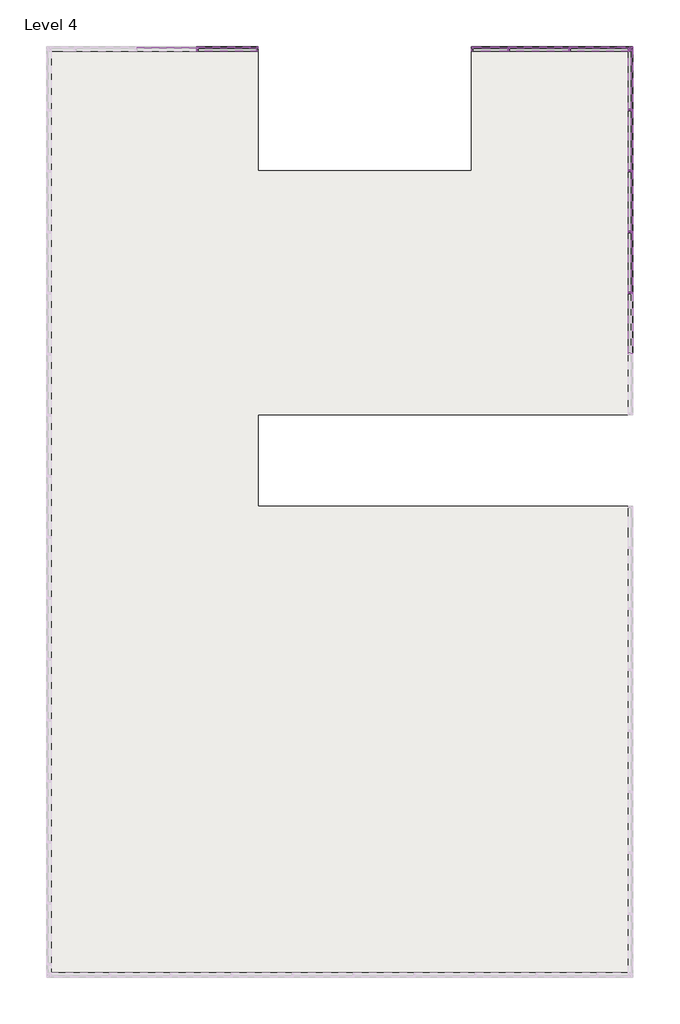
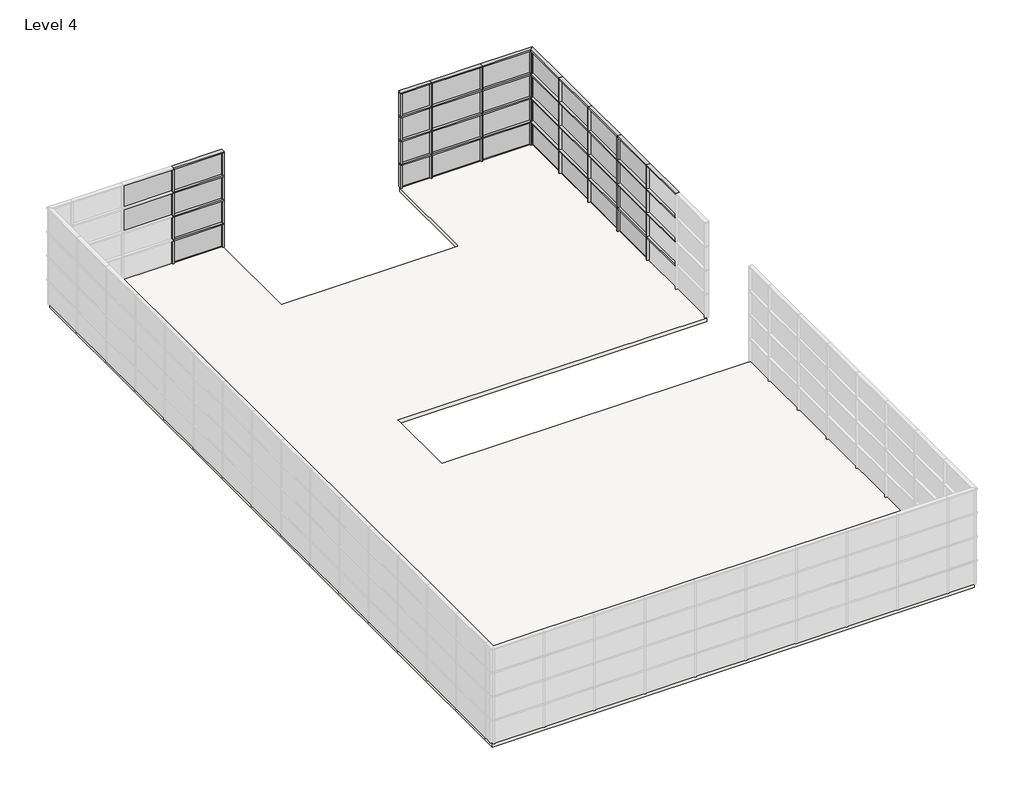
# One storey, part 5 of 5: 80 members, 34 plates, 1 slab.
"""IFC4 building model written with IfcOpenShell, lengths in millimetres."""

from ifc_helpers import new_model, si_unit, frame, origin, place, context, project, spatial, polyline, outline, extrude, transform, mapped, element, save
from components import rectangular_mullion_50_x_150mm_a053b0ca, rectangular_mullion_50_x_150mm_3a148f0f, rectangular_mullion_50_x_150mm_12a430f9, rectangular_mullion_50_x_150mm_11a594ce, rectangular_mullion_50_x_150mm_6b24f785, rectangular_mullion_50_x_150mm_947845bb, system_panel_glazed_751a585c, system_panel_glazed_08de6f5f, system_panel_glazed_892a108f

model = new_model("IFC4")

# Units and contexts
model_context = context("Model", 3, world=origin())
ifc_project = project(units=[si_unit("LENGTHUNIT", "METRE", prefix="MILLI")], contexts=[model_context])

# Site, building, storey
site = spatial("IfcSite", under=ifc_project)
building = spatial("IfcBuilding", under=site)
storey = spatial("IfcBuildingStorey", under=building, Name="Level 4", Elevation=12000.0)

# Members
placement = place(None, origin())
rectangular_mullion_50_x_150mm_shape = rectangular_mullion_50_x_150mm_a053b0ca(model_context)
element("IfcMember", 1, ObjectType="Rectangular Mullion : 50 x 150mm", at=placement, inside=storey, context=model_context, shape_type="MappedRepresentation", body=[
    mapped(rectangular_mullion_50_x_150mm_shape, transform((-721.580781, 8375.9839566, 12025.0), x_axis=(-1.0, 0.0, 0.0), y_axis=(0.0, 1.0, 0.0), z_axis=(0.0, 0.0, -1.0))),
])
element("IfcMember", 2, ObjectType="Rectangular Mullion : 50 x 150mm", at=placement, inside=storey, context=model_context, shape_type="MappedRepresentation", body=[
    mapped(rectangular_mullion_50_x_150mm_shape, transform((-721.580781, 8375.9839566, 13025.0), x_axis=(-1.0, 0.0, 0.0), y_axis=(0.0, 1.0, 0.0), z_axis=(0.0, 0.0, -1.0))),
])
element("IfcMember", 3, ObjectType="Rectangular Mullion : 50 x 150mm", at=placement, inside=storey, context=model_context, shape_type="MappedRepresentation", body=[
    mapped(rectangular_mullion_50_x_150mm_shape, transform((-721.580781, 8375.9839566, 14025.0), x_axis=(-1.0, 0.0, 0.0), y_axis=(0.0, 1.0, 0.0), z_axis=(0.0, 0.0, -1.0))),
])
element("IfcMember", 4, ObjectType="Rectangular Mullion : 50 x 150mm", at=placement, inside=storey, context=model_context, shape_type="MappedRepresentation", body=[
    mapped(rectangular_mullion_50_x_150mm_shape, transform((-721.580781, 8375.9839566, 15025.0), x_axis=(-1.0, 0.0, 0.0), y_axis=(0.0, 1.0, 0.0), z_axis=(0.0, 0.0, -1.0))),
])
element("IfcMember", 5, ObjectType="Rectangular Mullion : 50 x 150mm", at=placement, inside=storey, context=model_context, shape_type="MappedRepresentation", body=[
    mapped(rectangular_mullion_50_x_150mm_shape, transform((9503.2660975, 8375.9839566, 12025.0), x_axis=(-1.0, 0.0, 0.0), y_axis=(0.0, 1.0, 0.0), z_axis=(0.0, 0.0, -1.0))),
])
element("IfcMember", 6, ObjectType="Rectangular Mullion : 50 x 150mm", at=placement, inside=storey, context=model_context, shape_type="MappedRepresentation", body=[
    mapped(rectangular_mullion_50_x_150mm_shape, transform((9503.2660975, 8375.9839566, 13025.0), x_axis=(-1.0, 0.0, 0.0), y_axis=(0.0, 1.0, 0.0), z_axis=(0.0, 0.0, -1.0))),
])
element("IfcMember", 7, ObjectType="Rectangular Mullion : 50 x 150mm", at=placement, inside=storey, context=model_context, shape_type="MappedRepresentation", body=[
    mapped(rectangular_mullion_50_x_150mm_shape, transform((9503.2660975, 8375.9839566, 14025.0), x_axis=(-1.0, 0.0, 0.0), y_axis=(0.0, 1.0, 0.0), z_axis=(0.0, 0.0, -0.9999999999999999))),
])
element("IfcMember", 8, ObjectType="Rectangular Mullion : 50 x 150mm", at=placement, inside=storey, context=model_context, shape_type="MappedRepresentation", body=[
    mapped(rectangular_mullion_50_x_150mm_shape, transform((9503.2660975, 8375.9839566, 15025.0), x_axis=(-1.0, 0.0, 0.0), y_axis=(0.0, 1.0, 0.0), z_axis=(0.0, 0.0, -1.0))),
])
element("IfcMember", 9, ObjectType="Rectangular Mullion : 50 x 150mm", at=placement, inside=storey, context=model_context, shape_type="MappedRepresentation", body=[
    mapped(rectangular_mullion_50_x_150mm_shape, transform((11503.2660975, 8375.9839566, 12025.0), x_axis=(-1.0, 0.0, 0.0), y_axis=(0.0, 1.0, 0.0), z_axis=(0.0, 0.0, -1.0))),
])
element("IfcMember", 10, ObjectType="Rectangular Mullion : 50 x 150mm", at=placement, inside=storey, context=model_context, shape_type="MappedRepresentation", body=[
    mapped(rectangular_mullion_50_x_150mm_shape, transform((11503.2660975, 8375.9839566, 13025.0), x_axis=(-1.0, 0.0, 0.0), y_axis=(0.0, 1.0, 0.0), z_axis=(0.0, 0.0, -1.0))),
])
element("IfcMember", 11, ObjectType="Rectangular Mullion : 50 x 150mm", at=placement, inside=storey, context=model_context, shape_type="MappedRepresentation", body=[
    mapped(rectangular_mullion_50_x_150mm_shape, transform((11503.2660975, 8375.9839566, 14025.0), x_axis=(-1.0, 0.0, 0.0), y_axis=(0.0, 1.0, 0.0), z_axis=(0.0, 0.0, -1.0))),
])
element("IfcMember", 12, ObjectType="Rectangular Mullion : 50 x 150mm", at=placement, inside=storey, context=model_context, shape_type="MappedRepresentation", body=[
    mapped(rectangular_mullion_50_x_150mm_shape, transform((11503.2660975, 8375.9839566, 15025.0), x_axis=(-1.0, 0.0, 0.0), y_axis=(0.0, 1.0, 0.0), z_axis=(0.0, 0.0, -1.0))),
])
element("IfcMember", 13, ObjectType="Rectangular Mullion : 50 x 150mm", at=placement, inside=storey, context=model_context, shape_type="MappedRepresentation", body=[
    mapped(rectangular_mullion_50_x_150mm_shape, transform((13503.2660975, 2375.9839566, 12025.0), x_axis=(0.0, 1.0, 0.0), y_axis=(1.0, 0.0, 0.0), z_axis=(0.0, 0.0, -1.0))),
])
element("IfcMember", 14, ObjectType="Rectangular Mullion : 50 x 150mm", at=placement, inside=storey, context=model_context, shape_type="MappedRepresentation", body=[
    mapped(rectangular_mullion_50_x_150mm_shape, transform((13503.2660975, 2375.9839566, 13025.0), x_axis=(0.0, 1.0, 0.0), y_axis=(1.0, 0.0, 0.0), z_axis=(0.0, 0.0, -1.0))),
])
element("IfcMember", 15, ObjectType="Rectangular Mullion : 50 x 150mm", at=placement, inside=storey, context=model_context, shape_type="MappedRepresentation", body=[
    mapped(rectangular_mullion_50_x_150mm_shape, transform((13503.2660975, 2375.9839566, 14025.0), x_axis=(0.0, 1.0, 0.0), y_axis=(1.0, 0.0, 0.0), z_axis=(0.0, 0.0, -1.0))),
])
element("IfcMember", 16, ObjectType="Rectangular Mullion : 50 x 150mm", at=placement, inside=storey, context=model_context, shape_type="MappedRepresentation", body=[
    mapped(rectangular_mullion_50_x_150mm_shape, transform((13503.2660975, 2375.9839566, 15025.0), x_axis=(0.0, 1.0, 0.0), y_axis=(1.0, 0.0, 0.0), z_axis=(0.0, 0.0, -1.0))),
])
element("IfcMember", 17, ObjectType="Rectangular Mullion : 50 x 150mm", at=placement, inside=storey, context=model_context, shape_type="MappedRepresentation", body=[
    mapped(rectangular_mullion_50_x_150mm_shape, transform((13503.2660975, 4375.9839566, 12025.0), x_axis=(0.0, 1.0, 0.0), y_axis=(1.0, 0.0, 0.0), z_axis=(0.0, 0.0, -1.0))),
])
element("IfcMember", 18, ObjectType="Rectangular Mullion : 50 x 150mm", at=placement, inside=storey, context=model_context, shape_type="MappedRepresentation", body=[
    mapped(rectangular_mullion_50_x_150mm_shape, transform((13503.2660975, 4375.9839566, 13025.0), x_axis=(0.0, 1.0, 0.0), y_axis=(1.0, 0.0, 0.0), z_axis=(0.0, 0.0, -1.0))),
])
element("IfcMember", 19, ObjectType="Rectangular Mullion : 50 x 150mm", at=placement, inside=storey, context=model_context, shape_type="MappedRepresentation", body=[
    mapped(rectangular_mullion_50_x_150mm_shape, transform((13503.2660975, 4375.9839566, 14025.0), x_axis=(0.0, 1.0, 0.0), y_axis=(1.0, 0.0, 0.0), z_axis=(0.0, 0.0, -1.0))),
])
element("IfcMember", 20, ObjectType="Rectangular Mullion : 50 x 150mm", at=placement, inside=storey, context=model_context, shape_type="MappedRepresentation", body=[
    mapped(rectangular_mullion_50_x_150mm_shape, transform((13503.2660975, 4375.9839566, 15025.0), x_axis=(0.0, 1.0, 0.0), y_axis=(1.0, 0.0, 0.0), z_axis=(0.0, 0.0, -1.0))),
])
element("IfcMember", 21, ObjectType="Rectangular Mullion : 50 x 150mm", at=placement, inside=storey, context=model_context, shape_type="MappedRepresentation", body=[
    mapped(rectangular_mullion_50_x_150mm_shape, transform((13503.2660975, 6375.9839566, 12025.0), x_axis=(0.0, 1.0, 0.0), y_axis=(1.0, 0.0, 0.0), z_axis=(0.0, 0.0, -1.0))),
])
element("IfcMember", 22, ObjectType="Rectangular Mullion : 50 x 150mm", at=placement, inside=storey, context=model_context, shape_type="MappedRepresentation", body=[
    mapped(rectangular_mullion_50_x_150mm_shape, transform((13503.2660975, 6375.9839566, 13025.0), x_axis=(0.0, 1.0, 0.0), y_axis=(1.0, 0.0, 0.0), z_axis=(0.0, 0.0, -1.0))),
])
element("IfcMember", 23, ObjectType="Rectangular Mullion : 50 x 150mm", at=placement, inside=storey, context=model_context, shape_type="MappedRepresentation", body=[
    mapped(rectangular_mullion_50_x_150mm_shape, transform((13503.2660975, 6375.9839566, 14025.0), x_axis=(0.0, 1.0, 0.0), y_axis=(1.0, 0.0, 0.0), z_axis=(0.0, 0.0, -1.0))),
])
element("IfcMember", 24, ObjectType="Rectangular Mullion : 50 x 150mm", at=placement, inside=storey, context=model_context, shape_type="MappedRepresentation", body=[
    mapped(rectangular_mullion_50_x_150mm_shape, transform((13503.2660975, 6375.9839566, 15025.0), x_axis=(0.0, 1.0, 0.0), y_axis=(1.0, 0.0, 0.0), z_axis=(0.0, 0.0, -1.0))),
])
element("IfcMember", 25, ObjectType="Rectangular Mullion : 50 x 150mm", at=placement, inside=storey, context=model_context, shape_type="MappedRepresentation", body=[
    mapped(rectangular_mullion_50_x_150mm_shape, transform((13503.2660975, 375.9839566, 12025.0), x_axis=(0.0, 1.0, 0.0), y_axis=(1.0, 0.0, 0.0), z_axis=(0.0, 0.0, -1.0))),
])
element("IfcMember", 26, ObjectType="Rectangular Mullion : 50 x 150mm", at=placement, inside=storey, context=model_context, shape_type="MappedRepresentation", body=[
    mapped(rectangular_mullion_50_x_150mm_shape, transform((13503.2660975, 375.9839566, 13025.0), x_axis=(0.0, 1.0, 0.0), y_axis=(1.0, 0.0, 0.0), z_axis=(0.0, 0.0, -1.0))),
])
element("IfcMember", 27, ObjectType="Rectangular Mullion : 50 x 150mm", at=placement, inside=storey, context=model_context, shape_type="MappedRepresentation", body=[
    mapped(rectangular_mullion_50_x_150mm_shape, transform((13503.2660975, 375.9839566, 14025.0), x_axis=(0.0, 1.0, 0.0), y_axis=(1.0, 0.0, 0.0), z_axis=(0.0, 0.0, -1.0))),
])
element("IfcMember", 28, ObjectType="Rectangular Mullion : 50 x 150mm", at=placement, inside=storey, context=model_context, shape_type="MappedRepresentation", body=[
    mapped(rectangular_mullion_50_x_150mm_shape, transform((13503.2660975, 375.9839566, 15025.0), x_axis=(0.0, 1.0, 0.0), y_axis=(1.0, 0.0, 0.0), z_axis=(0.0, 0.0, -1.0))),
])
rectangular_mullion_50_x_150mm_2_shape = rectangular_mullion_50_x_150mm_3a148f0f(model_context)
element("IfcMember", 29, ObjectType="Rectangular Mullion : 50 x 150mm", at=placement, inside=storey, context=model_context, shape_type="MappedRepresentation", body=[
    mapped(rectangular_mullion_50_x_150mm_2_shape, transform((-721.580781, 8375.9839566, 13000.0), x_axis=(0.0, 0.0, 1.0), y_axis=(0.0, 1.0, 0.0), z_axis=(-1.0, 0.0, 0.0))),
])
element("IfcMember", 30, ObjectType="Rectangular Mullion : 50 x 150mm", at=placement, inside=storey, context=model_context, shape_type="MappedRepresentation", body=[
    mapped(rectangular_mullion_50_x_150mm_2_shape, transform((-721.580781, 8375.9839566, 14000.0), x_axis=(0.0, 0.0, 1.0), y_axis=(0.0, 1.0, 0.0), z_axis=(-1.0, 0.0, 0.0))),
])
element("IfcMember", 31, ObjectType="Rectangular Mullion : 50 x 150mm", at=placement, inside=storey, context=model_context, shape_type="MappedRepresentation", body=[
    mapped(rectangular_mullion_50_x_150mm_2_shape, transform((-721.580781, 8375.9839566, 15000.0), x_axis=(0.0, 0.0, 1.0), y_axis=(0.0, 1.0, 0.0), z_axis=(-0.9999999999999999, 0.0, 0.0))),
])
element("IfcMember", 32, ObjectType="Rectangular Mullion : 50 x 150mm", at=placement, inside=storey, context=model_context, shape_type="MappedRepresentation", body=[
    mapped(rectangular_mullion_50_x_150mm_2_shape, transform((-721.580781, 8375.9839566, 16000.0), x_axis=(0.0, 0.0, 1.0), y_axis=(0.0, 1.0, 0.0), z_axis=(-1.0, 0.0, 0.0))),
])
element("IfcMember", 33, ObjectType="Rectangular Mullion : 50 x 150mm", at=placement, inside=storey, context=model_context, shape_type="MappedRepresentation", body=[
    mapped(rectangular_mullion_50_x_150mm_2_shape, transform((9503.2660975, 8375.9839566, 14000.0), x_axis=(0.0, 0.0, 1.0), y_axis=(0.0, 1.0, 0.0), z_axis=(-1.0, 0.0, 0.0))),
])
element("IfcMember", 34, ObjectType="Rectangular Mullion : 50 x 150mm", at=placement, inside=storey, context=model_context, shape_type="MappedRepresentation", body=[
    mapped(rectangular_mullion_50_x_150mm_2_shape, transform((9503.2660975, 8375.9839566, 15000.0), x_axis=(0.0, 0.0, 1.0), y_axis=(0.0, 1.0, 0.0), z_axis=(-1.0, 0.0, 0.0))),
])
element("IfcMember", 35, ObjectType="Rectangular Mullion : 50 x 150mm", at=placement, inside=storey, context=model_context, shape_type="MappedRepresentation", body=[
    mapped(rectangular_mullion_50_x_150mm_2_shape, transform((9503.2660975, 8375.9839566, 16000.0), x_axis=(0.0, 0.0, 1.0), y_axis=(0.0, 1.0, 0.0), z_axis=(-1.0, 0.0, 0.0))),
])
element("IfcMember", 36, ObjectType="Rectangular Mullion : 50 x 150mm", at=placement, inside=storey, context=model_context, shape_type="MappedRepresentation", body=[
    mapped(rectangular_mullion_50_x_150mm_2_shape, transform((9503.2660975, 8375.9839566, 13000.0), x_axis=(0.0, 0.0, 1.0), y_axis=(0.0, 1.0, 0.0), z_axis=(-1.0, 0.0, 0.0))),
])
element("IfcMember", 37, ObjectType="Rectangular Mullion : 50 x 150mm", at=placement, inside=storey, context=model_context, shape_type="MappedRepresentation", body=[
    mapped(rectangular_mullion_50_x_150mm_2_shape, transform((13503.2660975, 375.9839566, 13000.0), x_axis=(0.0, 0.0, 1.0), y_axis=(1.0, 0.0, 0.0), z_axis=(0.0, 0.9999999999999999, 0.0))),
])
element("IfcMember", 38, ObjectType="Rectangular Mullion : 50 x 150mm", at=placement, inside=storey, context=model_context, shape_type="MappedRepresentation", body=[
    mapped(rectangular_mullion_50_x_150mm_2_shape, transform((13503.2660975, 2375.9839566, 13000.0), x_axis=(0.0, 0.0, 1.0), y_axis=(1.0, 0.0, 0.0), z_axis=(0.0, 1.0, 0.0))),
])
element("IfcMember", 39, ObjectType="Rectangular Mullion : 50 x 150mm", at=placement, inside=storey, context=model_context, shape_type="MappedRepresentation", body=[
    mapped(rectangular_mullion_50_x_150mm_2_shape, transform((13503.2660975, 4375.9839566, 13000.0), x_axis=(0.0, 0.0, 1.0), y_axis=(1.0, 0.0, 0.0), z_axis=(0.0, 1.0, 0.0))),
])
element("IfcMember", 40, ObjectType="Rectangular Mullion : 50 x 150mm", at=placement, inside=storey, context=model_context, shape_type="MappedRepresentation", body=[
    mapped(rectangular_mullion_50_x_150mm_2_shape, transform((13503.2660975, 6375.9839566, 13000.0), x_axis=(0.0, 0.0, 1.0), y_axis=(1.0, 0.0, 0.0), z_axis=(0.0, 1.0, 0.0))),
])
element("IfcMember", 41, ObjectType="Rectangular Mullion : 50 x 150mm", at=placement, inside=storey, context=model_context, shape_type="MappedRepresentation", body=[
    mapped(rectangular_mullion_50_x_150mm_2_shape, transform((13503.2660975, 375.9839566, 14000.0), x_axis=(0.0, 0.0, 1.0), y_axis=(1.0, 0.0, 0.0), z_axis=(0.0, 0.9999999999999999, 0.0))),
])
element("IfcMember", 42, ObjectType="Rectangular Mullion : 50 x 150mm", at=placement, inside=storey, context=model_context, shape_type="MappedRepresentation", body=[
    mapped(rectangular_mullion_50_x_150mm_2_shape, transform((13503.2660975, 2375.9839566, 14000.0), x_axis=(0.0, 0.0, 1.0), y_axis=(1.0, 0.0, 0.0), z_axis=(0.0, 1.0, 0.0))),
])
element("IfcMember", 43, ObjectType="Rectangular Mullion : 50 x 150mm", at=placement, inside=storey, context=model_context, shape_type="MappedRepresentation", body=[
    mapped(rectangular_mullion_50_x_150mm_2_shape, transform((13503.2660975, 4375.9839566, 14000.0), x_axis=(0.0, 0.0, 1.0), y_axis=(1.0, 0.0, 0.0), z_axis=(0.0, 1.0, 0.0))),
])
element("IfcMember", 44, ObjectType="Rectangular Mullion : 50 x 150mm", at=placement, inside=storey, context=model_context, shape_type="MappedRepresentation", body=[
    mapped(rectangular_mullion_50_x_150mm_2_shape, transform((13503.2660975, 6375.9839566, 14000.0), x_axis=(0.0, 0.0, 1.0), y_axis=(1.0, 0.0, 0.0), z_axis=(0.0, 1.0, 0.0))),
])
element("IfcMember", 45, ObjectType="Rectangular Mullion : 50 x 150mm", at=placement, inside=storey, context=model_context, shape_type="MappedRepresentation", body=[
    mapped(rectangular_mullion_50_x_150mm_2_shape, transform((13503.2660975, 375.9839566, 15000.0), x_axis=(0.0, 0.0, 1.0), y_axis=(1.0, 0.0, 0.0), z_axis=(0.0, 0.9999999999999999, 0.0))),
])
element("IfcMember", 46, ObjectType="Rectangular Mullion : 50 x 150mm", at=placement, inside=storey, context=model_context, shape_type="MappedRepresentation", body=[
    mapped(rectangular_mullion_50_x_150mm_2_shape, transform((13503.2660975, 2375.9839566, 15000.0), x_axis=(0.0, 0.0, 1.0), y_axis=(1.0, 0.0, 0.0), z_axis=(0.0, 1.0, 0.0))),
])
element("IfcMember", 47, ObjectType="Rectangular Mullion : 50 x 150mm", at=placement, inside=storey, context=model_context, shape_type="MappedRepresentation", body=[
    mapped(rectangular_mullion_50_x_150mm_2_shape, transform((13503.2660975, 4375.9839566, 15000.0), x_axis=(0.0, 0.0, 1.0), y_axis=(1.0, 0.0, 0.0), z_axis=(0.0, 1.0, 0.0))),
])
element("IfcMember", 48, ObjectType="Rectangular Mullion : 50 x 150mm", at=placement, inside=storey, context=model_context, shape_type="MappedRepresentation", body=[
    mapped(rectangular_mullion_50_x_150mm_2_shape, transform((13503.2660975, 6375.9839566, 15000.0), x_axis=(0.0, 0.0, 1.0), y_axis=(1.0, 0.0, 0.0), z_axis=(0.0, 1.0, 0.0))),
])
element("IfcMember", 49, ObjectType="Rectangular Mullion : 50 x 150mm", at=placement, inside=storey, context=model_context, shape_type="MappedRepresentation", body=[
    mapped(rectangular_mullion_50_x_150mm_2_shape, transform((13503.2660975, 375.9839566, 16000.0), x_axis=(0.0, 0.0, 1.0), y_axis=(1.0, 0.0, 0.0), z_axis=(0.0, 1.0, 0.0))),
])
element("IfcMember", 50, ObjectType="Rectangular Mullion : 50 x 150mm", at=placement, inside=storey, context=model_context, shape_type="MappedRepresentation", body=[
    mapped(rectangular_mullion_50_x_150mm_2_shape, transform((13503.2660975, 2375.9839566, 16000.0), x_axis=(0.0, 0.0, 1.0), y_axis=(1.0, 0.0, 0.0), z_axis=(0.0, 1.0, 0.0))),
])
element("IfcMember", 51, ObjectType="Rectangular Mullion : 50 x 150mm", at=placement, inside=storey, context=model_context, shape_type="MappedRepresentation", body=[
    mapped(rectangular_mullion_50_x_150mm_2_shape, transform((13503.2660975, 4375.9839566, 16000.0), x_axis=(0.0, 0.0, 1.0), y_axis=(1.0, 0.0, 0.0), z_axis=(0.0, 1.0, 0.0))),
])
element("IfcMember", 52, ObjectType="Rectangular Mullion : 50 x 150mm", at=placement, inside=storey, context=model_context, shape_type="MappedRepresentation", body=[
    mapped(rectangular_mullion_50_x_150mm_2_shape, transform((13503.2660975, 6375.9839566, 16000.0), x_axis=(0.0, 0.0, 1.0), y_axis=(1.0, 0.0, 0.0), z_axis=(0.0, 1.0, 0.0))),
])
rectangular_mullion_50_x_150mm_3_shape = rectangular_mullion_50_x_150mm_12a430f9(model_context)
element("IfcMember", 53, ObjectType="Rectangular Mullion : 50 x 150mm", at=placement, inside=storey, context=model_context, shape_type="MappedRepresentation", body=[
    mapped(rectangular_mullion_50_x_150mm_3_shape, transform((1278.419219, 8375.9839566, 13975.0), x_axis=(1.0, 0.0, 0.0), y_axis=(0.0, 1.0, 0.0), z_axis=(0.0, 0.0, 1.0))),
])
element("IfcMember", 54, ObjectType="Rectangular Mullion : 50 x 150mm", at=placement, inside=storey, context=model_context, shape_type="MappedRepresentation", body=[
    mapped(rectangular_mullion_50_x_150mm_3_shape, transform((1278.419219, 8375.9839566, 14975.0), x_axis=(1.0, 0.0, 0.0), y_axis=(0.0, 1.0, 0.0), z_axis=(0.0, 0.0, 1.0))),
])
element("IfcMember", 55, ObjectType="Rectangular Mullion : 50 x 150mm", at=placement, inside=storey, context=model_context, shape_type="MappedRepresentation", body=[
    mapped(rectangular_mullion_50_x_150mm_3_shape, transform((1278.419219, 8375.9839566, 15975.0), x_axis=(1.0, 0.0, 0.0), y_axis=(0.0, 1.0, 0.0), z_axis=(0.0, 0.0, 1.0))),
])
element("IfcMember", 56, ObjectType="Rectangular Mullion : 50 x 150mm", at=placement, inside=storey, context=model_context, shape_type="MappedRepresentation", body=[
    mapped(rectangular_mullion_50_x_150mm_3_shape, transform((1278.419219, 8375.9839566, 12975.0), x_axis=(1.0, 0.0, 0.0), y_axis=(0.0, 1.0, 0.0), z_axis=(0.0, 0.0, 1.0))),
])
element("IfcMember", 57, ObjectType="Rectangular Mullion : 50 x 150mm", at=placement, inside=storey, context=model_context, shape_type="MappedRepresentation", body=[
    mapped(rectangular_mullion_50_x_150mm_3_shape, transform((13503.2660975, 8375.9839566, 12975.0), x_axis=(1.0, 0.0, 0.0), y_axis=(0.0, 1.0, 0.0), z_axis=(0.0, 0.0, 1.0))),
])
element("IfcMember", 58, ObjectType="Rectangular Mullion : 50 x 150mm", at=placement, inside=storey, context=model_context, shape_type="MappedRepresentation", body=[
    mapped(rectangular_mullion_50_x_150mm_3_shape, transform((13503.2660975, 8375.9839566, 13975.0), x_axis=(1.0, 0.0, 0.0), y_axis=(0.0, 1.0, 0.0), z_axis=(0.0, 0.0, 1.0))),
])
element("IfcMember", 59, ObjectType="Rectangular Mullion : 50 x 150mm", at=placement, inside=storey, context=model_context, shape_type="MappedRepresentation", body=[
    mapped(rectangular_mullion_50_x_150mm_3_shape, transform((13503.2660975, 8375.9839566, 14975.0), x_axis=(1.0, 0.0, 0.0), y_axis=(0.0, 1.0, 0.0), z_axis=(0.0, 0.0, 1.0))),
])
element("IfcMember", 60, ObjectType="Rectangular Mullion : 50 x 150mm", at=placement, inside=storey, context=model_context, shape_type="MappedRepresentation", body=[
    mapped(rectangular_mullion_50_x_150mm_3_shape, transform((13503.2660975, 8375.9839566, 15975.0), x_axis=(1.0, 0.0, 0.0), y_axis=(0.0, 1.0, 0.0), z_axis=(0.0, 0.0, 1.0))),
])
element("IfcMember", 61, ObjectType="Rectangular Mullion : 50 x 150mm", at=placement, inside=storey, context=model_context, shape_type="MappedRepresentation", body=[
    mapped(rectangular_mullion_50_x_150mm_3_shape, transform((8278.419219, 8375.9839566, 12025.0), x_axis=(-1.0, 0.0, 0.0), y_axis=(0.0, 1.0, 0.0), z_axis=(0.0, 0.0, -1.0))),
])
element("IfcMember", 62, ObjectType="Rectangular Mullion : 50 x 150mm", at=placement, inside=storey, context=model_context, shape_type="MappedRepresentation", body=[
    mapped(rectangular_mullion_50_x_150mm_3_shape, transform((8278.419219, 8375.9839566, 13025.0), x_axis=(-1.0, 0.0, 0.0), y_axis=(0.0, 1.0, 0.0), z_axis=(0.0, 0.0, -1.0))),
])
element("IfcMember", 63, ObjectType="Rectangular Mullion : 50 x 150mm", at=placement, inside=storey, context=model_context, shape_type="MappedRepresentation", body=[
    mapped(rectangular_mullion_50_x_150mm_3_shape, transform((8278.419219, 8375.9839566, 14025.0), x_axis=(-1.0, 0.0, 0.0), y_axis=(0.0, 1.0, 0.0), z_axis=(0.0, 0.0, -1.0))),
])
element("IfcMember", 64, ObjectType="Rectangular Mullion : 50 x 150mm", at=placement, inside=storey, context=model_context, shape_type="MappedRepresentation", body=[
    mapped(rectangular_mullion_50_x_150mm_3_shape, transform((8278.419219, 8375.9839566, 15025.0), x_axis=(-1.0, 0.0, 0.0), y_axis=(0.0, 1.0, 0.0), z_axis=(0.0, 0.0, -1.0))),
])
element("IfcMember", 65, ObjectType="Rectangular Mullion : 50 x 150mm", at=placement, inside=storey, context=model_context, shape_type="MappedRepresentation", body=[
    mapped(rectangular_mullion_50_x_150mm_3_shape, transform((13503.2660975, 8375.9839566, 12025.0), x_axis=(0.0, 1.0, 0.0), y_axis=(1.0, 0.0, 0.0), z_axis=(0.0, 0.0, -1.0))),
])
element("IfcMember", 66, ObjectType="Rectangular Mullion : 50 x 150mm", at=placement, inside=storey, context=model_context, shape_type="MappedRepresentation", body=[
    mapped(rectangular_mullion_50_x_150mm_3_shape, transform((13503.2660975, 8375.9839566, 13025.0), x_axis=(0.0, 1.0, 0.0), y_axis=(1.0, 0.0, 0.0), z_axis=(0.0, 0.0, -1.0))),
])
element("IfcMember", 67, ObjectType="Rectangular Mullion : 50 x 150mm", at=placement, inside=storey, context=model_context, shape_type="MappedRepresentation", body=[
    mapped(rectangular_mullion_50_x_150mm_3_shape, transform((13503.2660975, 8375.9839566, 14025.0), x_axis=(0.0, 1.0, 0.0), y_axis=(1.0, 0.0, 0.0), z_axis=(0.0, 0.0, -1.0))),
])
element("IfcMember", 68, ObjectType="Rectangular Mullion : 50 x 150mm", at=placement, inside=storey, context=model_context, shape_type="MappedRepresentation", body=[
    mapped(rectangular_mullion_50_x_150mm_3_shape, transform((13503.2660975, 8375.9839566, 15025.0), x_axis=(0.0, 1.0, 0.0), y_axis=(1.0, 0.0, 0.0), z_axis=(0.0, 0.0, -1.0))),
])
rectangular_mullion_50_x_150mm_4_shape = rectangular_mullion_50_x_150mm_11a594ce(model_context)
element("IfcMember", 69, ObjectType="Rectangular Mullion : 50 x 150mm", at=placement, inside=storey, context=model_context, shape_type="MappedRepresentation", body=[
    mapped(rectangular_mullion_50_x_150mm_4_shape, transform((8278.419219, 8375.9839566, 13000.0), x_axis=(0.0, 0.0, 1.0), y_axis=(0.0, 1.0, 0.0), z_axis=(-1.0, 0.0, 0.0))),
])
element("IfcMember", 70, ObjectType="Rectangular Mullion : 50 x 150mm", at=placement, inside=storey, context=model_context, shape_type="MappedRepresentation", body=[
    mapped(rectangular_mullion_50_x_150mm_4_shape, transform((8278.419219, 8375.9839566, 14000.0), x_axis=(0.0, 0.0, 1.0), y_axis=(0.0, 1.0, 0.0), z_axis=(-1.0, 0.0, 0.0))),
])
element("IfcMember", 71, ObjectType="Rectangular Mullion : 50 x 150mm", at=placement, inside=storey, context=model_context, shape_type="MappedRepresentation", body=[
    mapped(rectangular_mullion_50_x_150mm_4_shape, transform((8278.419219, 8375.9839566, 15000.0), x_axis=(0.0, 0.0, 1.0), y_axis=(0.0, 1.0, 0.0), z_axis=(-1.0, 0.0, 0.0))),
])
element("IfcMember", 72, ObjectType="Rectangular Mullion : 50 x 150mm", at=placement, inside=storey, context=model_context, shape_type="MappedRepresentation", body=[
    mapped(rectangular_mullion_50_x_150mm_4_shape, transform((8278.419219, 8375.9839566, 16000.0), x_axis=(0.0, 0.0, 1.0), y_axis=(0.0, 1.0, 0.0), z_axis=(-1.0, 0.0, 0.0))),
])
rectangular_mullion_50_x_150mm_5_shape = rectangular_mullion_50_x_150mm_6b24f785(model_context)
element("IfcMember", 73, ObjectType="Rectangular Mullion : 50 x 150mm", at=placement, inside=storey, context=model_context, shape_type="MappedRepresentation", body=[
    mapped(rectangular_mullion_50_x_150mm_5_shape, transform((13503.2660975, 8375.9839566, 13000.0), x_axis=(0.0, 0.0, 1.0), y_axis=(1.0, 0.0, 0.0), z_axis=(0.0, 0.9999999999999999, 0.0))),
])
element("IfcMember", 74, ObjectType="Rectangular Mullion : 50 x 150mm", at=placement, inside=storey, context=model_context, shape_type="MappedRepresentation", body=[
    mapped(rectangular_mullion_50_x_150mm_5_shape, transform((13503.2660975, 8375.9839566, 14000.0), x_axis=(0.0, 0.0, 1.0), y_axis=(1.0, 0.0, 0.0), z_axis=(0.0, 0.9999999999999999, 0.0))),
])
element("IfcMember", 75, ObjectType="Rectangular Mullion : 50 x 150mm", at=placement, inside=storey, context=model_context, shape_type="MappedRepresentation", body=[
    mapped(rectangular_mullion_50_x_150mm_5_shape, transform((13503.2660975, 8375.9839566, 15000.0), x_axis=(0.0, 0.0, 1.0), y_axis=(1.0, 0.0, 0.0), z_axis=(0.0, 0.9999999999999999, 0.0))),
])
element("IfcMember", 76, ObjectType="Rectangular Mullion : 50 x 150mm", at=placement, inside=storey, context=model_context, shape_type="MappedRepresentation", body=[
    mapped(rectangular_mullion_50_x_150mm_5_shape, transform((13503.2660975, 8375.9839566, 16000.0), x_axis=(0.0, 0.0, 1.0), y_axis=(1.0, 0.0, 0.0), z_axis=(0.0, 0.9999999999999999, 0.0))),
])
rectangular_mullion_50_x_150mm_6_shape = rectangular_mullion_50_x_150mm_947845bb(model_context)
element("IfcMember", 77, ObjectType="Rectangular Mullion : 50 x 150mm", at=placement, inside=storey, context=model_context, shape_type="MappedRepresentation", body=[
    mapped(rectangular_mullion_50_x_150mm_6_shape, transform((11503.2660975, 8375.9839566, 15000.0), x_axis=(0.0, 0.0, 1.0), y_axis=(0.0, 1.0, 0.0), z_axis=(-1.0, 0.0, 0.0))),
])
element("IfcMember", 78, ObjectType="Rectangular Mullion : 50 x 150mm", at=placement, inside=storey, context=model_context, shape_type="MappedRepresentation", body=[
    mapped(rectangular_mullion_50_x_150mm_6_shape, transform((11503.2660975, 8375.9839566, 16000.0), x_axis=(0.0, 0.0, 1.0), y_axis=(0.0, 1.0, 0.0), z_axis=(-1.0, 0.0, 0.0))),
])
element("IfcMember", 79, ObjectType="Rectangular Mullion : 50 x 150mm", at=placement, inside=storey, context=model_context, shape_type="MappedRepresentation", body=[
    mapped(rectangular_mullion_50_x_150mm_6_shape, transform((11503.2660975, 8375.9839566, 13000.0), x_axis=(0.0, 0.0, 1.0), y_axis=(0.0, 1.0, 0.0), z_axis=(-1.0, 0.0, 0.0))),
])
element("IfcMember", 80, ObjectType="Rectangular Mullion : 50 x 150mm", at=placement, inside=storey, context=model_context, shape_type="MappedRepresentation", body=[
    mapped(rectangular_mullion_50_x_150mm_6_shape, transform((11503.2660975, 8375.9839566, 14000.0), x_axis=(0.0, 0.0, 1.0), y_axis=(0.0, 1.0, 0.0), z_axis=(-1.0, 0.0, 0.0))),
])

# Plates
system_panel_glazed_shape = system_panel_glazed_751a585c(model_context)
element("IfcPlate", 81, ObjectType="System Panel : Glazed", at=placement, inside=storey, context=model_context, shape_type="MappedRepresentation", body=[
    mapped(system_panel_glazed_shape, transform((13503.2660975, 6400.9839566, 12500.0), x_axis=(0.0, 0.0, 1.0), y_axis=(1.0, 0.0, 0.0), z_axis=(0.0, 1.0, 0.0))),
])
element("IfcPlate", 82, ObjectType="System Panel : Glazed", at=placement, inside=storey, context=model_context, shape_type="MappedRepresentation", body=[
    mapped(system_panel_glazed_shape, transform((13503.2660975, 6400.9839566, 13500.0), x_axis=(0.0, 0.0, 1.0), y_axis=(1.0, 0.0, 0.0), z_axis=(0.0, 1.0, 0.0))),
])
element("IfcPlate", 83, ObjectType="System Panel : Glazed", at=placement, inside=storey, context=model_context, shape_type="MappedRepresentation", body=[
    mapped(system_panel_glazed_shape, transform((13503.2660975, 6400.9839566, 14500.0), x_axis=(0.0, 0.0, 1.0), y_axis=(1.0, 0.0, 0.0), z_axis=(0.0, 1.0, 0.0))),
])
element("IfcPlate", 84, ObjectType="System Panel : Glazed", at=placement, inside=storey, context=model_context, shape_type="MappedRepresentation", body=[
    mapped(system_panel_glazed_shape, transform((13503.2660975, 6400.9839566, 15500.0), x_axis=(0.0, 0.0, 1.0), y_axis=(1.0, 0.0, 0.0), z_axis=(0.0, 1.0, 0.0))),
])
element("IfcPlate", 85, ObjectType="System Panel : Glazed", at=placement, inside=storey, context=model_context, shape_type="MappedRepresentation", body=[
    mapped(system_panel_glazed_shape, transform((13453.2660975, 8375.9839566, 12500.0), x_axis=(0.0, 0.0, 1.0), y_axis=(0.0, 1.0, 0.0), z_axis=(-1.0, 0.0, 0.0))),
])
element("IfcPlate", 86, ObjectType="System Panel : Glazed", at=placement, inside=storey, context=model_context, shape_type="MappedRepresentation", body=[
    mapped(system_panel_glazed_shape, transform((13453.2660975, 8375.9839566, 13500.0), x_axis=(0.0, 0.0, 1.0), y_axis=(0.0, 1.0, 0.0), z_axis=(-1.0, 0.0, 0.0))),
])
element("IfcPlate", 87, ObjectType="System Panel : Glazed", at=placement, inside=storey, context=model_context, shape_type="MappedRepresentation", body=[
    mapped(system_panel_glazed_shape, transform((13453.2660975, 8375.9839566, 14500.0), x_axis=(0.0, 0.0, 1.0), y_axis=(0.0, 1.0, 0.0), z_axis=(-1.0, 0.0, 0.0))),
])
element("IfcPlate", 88, ObjectType="System Panel : Glazed", at=placement, inside=storey, context=model_context, shape_type="MappedRepresentation", body=[
    mapped(system_panel_glazed_shape, transform((13453.2660975, 8375.9839566, 15500.0), x_axis=(0.0, 0.0, 1.0), y_axis=(0.0, 1.0, 0.0), z_axis=(-1.0, 0.0, 0.0))),
])
element("IfcPlate", 89, ObjectType="System Panel : Glazed", at=placement, inside=storey, context=model_context, shape_type="MappedRepresentation", body=[
    mapped(system_panel_glazed_shape, transform((1228.419219, 8375.9839566, 12500.0), x_axis=(0.0, 0.0, 1.0), y_axis=(0.0, 1.0, 0.0), z_axis=(-1.0, 0.0, 0.0))),
])
element("IfcPlate", 90, ObjectType="System Panel : Glazed", at=placement, inside=storey, context=model_context, shape_type="MappedRepresentation", body=[
    mapped(system_panel_glazed_shape, transform((1228.419219, 8375.9839566, 13500.0), x_axis=(0.0, 0.0, 1.0), y_axis=(0.0, 1.0, 0.0), z_axis=(-1.0, 0.0, 0.0))),
])
element("IfcPlate", 91, ObjectType="System Panel : Glazed", at=placement, inside=storey, context=model_context, shape_type="MappedRepresentation", body=[
    mapped(system_panel_glazed_shape, transform((1228.419219, 8375.9839566, 14500.0), x_axis=(0.0, 0.0, 1.0), y_axis=(0.0, 1.0, 0.0), z_axis=(-1.0, 0.0, 0.0))),
])
element("IfcPlate", 92, ObjectType="System Panel : Glazed", at=placement, inside=storey, context=model_context, shape_type="MappedRepresentation", body=[
    mapped(system_panel_glazed_shape, transform((1228.419219, 8375.9839566, 15500.0), x_axis=(0.0, 0.0, 1.0), y_axis=(0.0, 1.0, 0.0), z_axis=(-1.0, 0.0, 0.0))),
])
system_panel_glazed_2_shape = system_panel_glazed_08de6f5f(model_context)
element("IfcPlate", 93, ObjectType="System Panel : Glazed", at=placement, inside=storey, context=model_context, shape_type="MappedRepresentation", body=[
    mapped(system_panel_glazed_2_shape, transform((13503.2660975, 400.9839566, 12500.0), x_axis=(0.0, 0.0, 1.0), y_axis=(1.0, 0.0, 0.0), z_axis=(0.0, 1.0, 0.0))),
])
element("IfcPlate", 94, ObjectType="System Panel : Glazed", at=placement, inside=storey, context=model_context, shape_type="MappedRepresentation", body=[
    mapped(system_panel_glazed_2_shape, transform((13503.2660975, 2400.9839566, 12500.0), x_axis=(0.0, 0.0, 1.0), y_axis=(1.0, 0.0, 0.0), z_axis=(0.0, 1.0, 0.0))),
])
element("IfcPlate", 95, ObjectType="System Panel : Glazed", at=placement, inside=storey, context=model_context, shape_type="MappedRepresentation", body=[
    mapped(system_panel_glazed_2_shape, transform((13503.2660975, 4400.9839566, 12500.0), x_axis=(0.0, 0.0, 1.0), y_axis=(1.0, 0.0, 0.0), z_axis=(0.0, 1.0, 0.0))),
])
element("IfcPlate", 96, ObjectType="System Panel : Glazed", at=placement, inside=storey, context=model_context, shape_type="MappedRepresentation", body=[
    mapped(system_panel_glazed_2_shape, transform((13503.2660975, 400.9839566, 13500.0), x_axis=(0.0, 0.0, 1.0), y_axis=(1.0, 0.0, 0.0), z_axis=(0.0, 1.0, 0.0))),
])
element("IfcPlate", 97, ObjectType="System Panel : Glazed", at=placement, inside=storey, context=model_context, shape_type="MappedRepresentation", body=[
    mapped(system_panel_glazed_2_shape, transform((13503.2660975, 2400.9839566, 13500.0), x_axis=(0.0, 0.0, 1.0), y_axis=(1.0, 0.0, 0.0), z_axis=(0.0, 1.0, 0.0))),
])
element("IfcPlate", 98, ObjectType="System Panel : Glazed", at=placement, inside=storey, context=model_context, shape_type="MappedRepresentation", body=[
    mapped(system_panel_glazed_2_shape, transform((13503.2660975, 4400.9839566, 13500.0), x_axis=(0.0, 0.0, 1.0), y_axis=(1.0, 0.0, 0.0), z_axis=(0.0, 1.0, 0.0))),
])
element("IfcPlate", 99, ObjectType="System Panel : Glazed", at=placement, inside=storey, context=model_context, shape_type="MappedRepresentation", body=[
    mapped(system_panel_glazed_2_shape, transform((13503.2660975, 400.9839566, 14500.0), x_axis=(0.0, 0.0, 1.0), y_axis=(1.0, 0.0, 0.0), z_axis=(0.0, 1.0, 0.0))),
])
element("IfcPlate", 100, ObjectType="System Panel : Glazed", at=placement, inside=storey, context=model_context, shape_type="MappedRepresentation", body=[
    mapped(system_panel_glazed_2_shape, transform((13503.2660975, 2400.9839566, 14500.0), x_axis=(0.0, 0.0, 1.0), y_axis=(1.0, 0.0, 0.0), z_axis=(0.0, 1.0, 0.0))),
])
element("IfcPlate", 101, ObjectType="System Panel : Glazed", at=placement, inside=storey, context=model_context, shape_type="MappedRepresentation", body=[
    mapped(system_panel_glazed_2_shape, transform((13503.2660975, 4400.9839566, 14500.0), x_axis=(0.0, 0.0, 1.0), y_axis=(1.0, 0.0, 0.0), z_axis=(0.0, 1.0, 0.0))),
])
element("IfcPlate", 102, ObjectType="System Panel : Glazed", at=placement, inside=storey, context=model_context, shape_type="MappedRepresentation", body=[
    mapped(system_panel_glazed_2_shape, transform((13503.2660975, 400.9839566, 15500.0), x_axis=(0.0, 0.0, 1.0), y_axis=(1.0, 0.0, 0.0), z_axis=(0.0, 1.0, 0.0))),
])
element("IfcPlate", 103, ObjectType="System Panel : Glazed", at=placement, inside=storey, context=model_context, shape_type="MappedRepresentation", body=[
    mapped(system_panel_glazed_2_shape, transform((13503.2660975, 2400.9839566, 15500.0), x_axis=(0.0, 0.0, 1.0), y_axis=(1.0, 0.0, 0.0), z_axis=(0.0, 1.0, 0.0))),
])
element("IfcPlate", 104, ObjectType="System Panel : Glazed", at=placement, inside=storey, context=model_context, shape_type="MappedRepresentation", body=[
    mapped(system_panel_glazed_2_shape, transform((13503.2660975, 4400.9839566, 15500.0), x_axis=(0.0, 0.0, 1.0), y_axis=(1.0, 0.0, 0.0), z_axis=(0.0, 1.0, 0.0))),
])
element("IfcPlate", 105, ObjectType="System Panel : Glazed", at=placement, inside=storey, context=model_context, shape_type="MappedRepresentation", body=[
    mapped(system_panel_glazed_2_shape, transform((11478.2660975, 8375.9839566, 12500.0), x_axis=(0.0, 0.0, 1.0), y_axis=(0.0, 1.0, 0.0), z_axis=(-1.0, 0.0, 0.0))),
])
element("IfcPlate", 106, ObjectType="System Panel : Glazed", at=placement, inside=storey, context=model_context, shape_type="MappedRepresentation", body=[
    mapped(system_panel_glazed_2_shape, transform((11478.2660975, 8375.9839566, 13500.0), x_axis=(0.0, 0.0, 1.0), y_axis=(0.0, 1.0, 0.0), z_axis=(-1.0, 0.0, 0.0))),
])
element("IfcPlate", 107, ObjectType="System Panel : Glazed", at=placement, inside=storey, context=model_context, shape_type="MappedRepresentation", body=[
    mapped(system_panel_glazed_2_shape, transform((11478.2660975, 8375.9839566, 14500.0), x_axis=(0.0, 0.0, 1.0), y_axis=(0.0, 1.0, 0.0), z_axis=(-1.0, 0.0, 0.0))),
])
element("IfcPlate", 108, ObjectType="System Panel : Glazed", at=placement, inside=storey, context=model_context, shape_type="MappedRepresentation", body=[
    mapped(system_panel_glazed_2_shape, transform((11478.2660975, 8375.9839566, 15500.0), x_axis=(0.0, 0.0, 1.0), y_axis=(0.0, 1.0, 0.0), z_axis=(-1.0, 0.0, 0.0))),
])
element("IfcPlate", 109, ObjectType="System Panel : Glazed", at=placement, inside=storey, context=model_context, shape_type="MappedRepresentation", body=[
    mapped(system_panel_glazed_2_shape, transform((-746.580781, 8375.9839566, 14500.0), x_axis=(0.0, 0.0, 1.0), y_axis=(0.0, 1.0, 0.0), z_axis=(-1.0, 0.0, 0.0))),
])
element("IfcPlate", 110, ObjectType="System Panel : Glazed", at=placement, inside=storey, context=model_context, shape_type="MappedRepresentation", body=[
    mapped(system_panel_glazed_2_shape, transform((-746.580781, 8375.9839566, 15500.0), x_axis=(0.0, 0.0, 1.0), y_axis=(0.0, 1.0, 0.0), z_axis=(-1.0, 0.0, 0.0))),
])
system_panel_glazed_3_shape = system_panel_glazed_892a108f(model_context)
element("IfcPlate", 111, ObjectType="System Panel : Glazed", at=placement, inside=storey, context=model_context, shape_type="MappedRepresentation", body=[
    mapped(system_panel_glazed_3_shape, transform((9478.2660975, 8375.9839566, 12500.0), x_axis=(0.0, 0.0, 1.0), y_axis=(0.0, 1.0, 0.0), z_axis=(-1.0, 0.0, 0.0))),
])
element("IfcPlate", 112, ObjectType="System Panel : Glazed", at=placement, inside=storey, context=model_context, shape_type="MappedRepresentation", body=[
    mapped(system_panel_glazed_3_shape, transform((9478.2660975, 8375.9839566, 13500.0), x_axis=(0.0, 0.0, 1.0), y_axis=(0.0, 1.0, 0.0), z_axis=(-1.0, 0.0, 0.0))),
])
element("IfcPlate", 113, ObjectType="System Panel : Glazed", at=placement, inside=storey, context=model_context, shape_type="MappedRepresentation", body=[
    mapped(system_panel_glazed_3_shape, transform((9478.2660975, 8375.9839566, 14500.0), x_axis=(0.0, 0.0, 1.0), y_axis=(0.0, 1.0, 0.0), z_axis=(-1.0, 0.0, 0.0))),
])
element("IfcPlate", 114, ObjectType="System Panel : Glazed", at=placement, inside=storey, context=model_context, shape_type="MappedRepresentation", body=[
    mapped(system_panel_glazed_3_shape, transform((9478.2660975, 8375.9839566, 15500.0), x_axis=(0.0, 0.0, 1.0), y_axis=(0.0, 1.0, 0.0), z_axis=(-1.0, 0.0, 0.0))),
])

# Slab
element("IfcSlab", 115, ObjectType="Generic 150mm", at=placement, inside=storey, context=model_context, shape_type="SweptSolid", body=[
    extrude(outline(polyline([(-5587.173406, 8375.9839566), (1278.419219, 8375.9839566), (1278.419219, 4375.9839566), (8278.419219, 4375.9839566), (8278.419219, 8375.9839566), (13503.2660975, 8375.9839566), (13503.2660975, -3624.0160434), (1278.419219, -3624.0160434), (1278.419219, -6624.0160434), (13503.2660975, -6624.0160434), (13503.2660975, -21988.7417365), (-5587.173406, -21988.7417365), (-5587.173406, 8375.9839566)])), frame((0.0, 0.0, 11850.0), z_axis=(0.0, 0.0, 1.0), x_axis=(1.0, 0.0, 0.0)), (0.0, 0.0, 1.0), 150.0),
])

save(model, "model.ifc")
